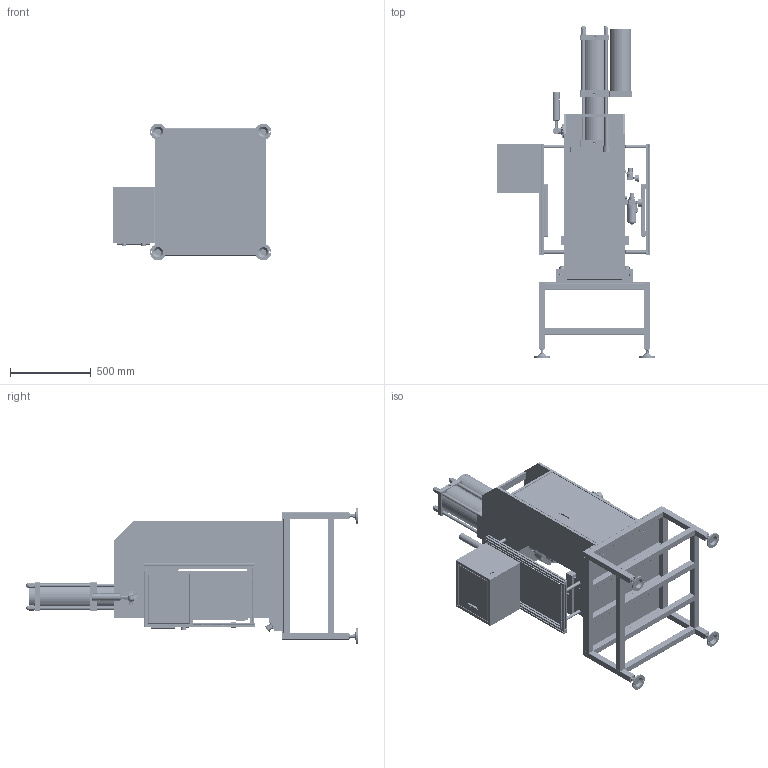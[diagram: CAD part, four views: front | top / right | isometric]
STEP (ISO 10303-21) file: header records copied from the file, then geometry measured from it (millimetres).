
FILE_DESCRIPTION((''),'2;1');
FILE_NAME('ZHENJI_ASM','2026-06-24T09:55:04',('zxb27'),(''),'CREO PARAMETRIC BY PTC INC, 2022164','CREO PARAMETRIC BY PTC INC, 2022164','');
FILE_SCHEMA(('AUTOMOTIVE_DESIGN { 1 0 10303 214 1 1 1 1 }'));
Products named in the file (1): ZHENJI_ASM
Bounding box: 980 x 2049.39 x 845 mm (x, y, z)
Surface area: 13102003.9 mm2 (no closed solid volume)
Topology: 0 solids, 151 shells, 9272 faces, 26519 edges, 17310 vertices
Faces by surface type: plane 5683, cylinder 2904, cone 280, bspline 226, torus 122, sphere 43, extrusion 14
Entity records: 469285 total; most frequent: CARTESIAN_POINT 164298, ORIENTED_EDGE 50908, DIRECTION 46310, EDGE_CURVE 26451, VECTOR 17658, LINE 17644, VERTEX_POINT 17310, PRESENTATION_STYLE_ASSIGNMENT 14650
